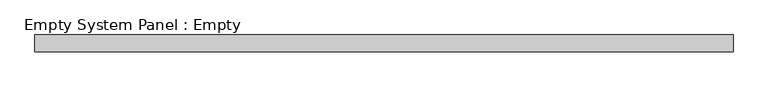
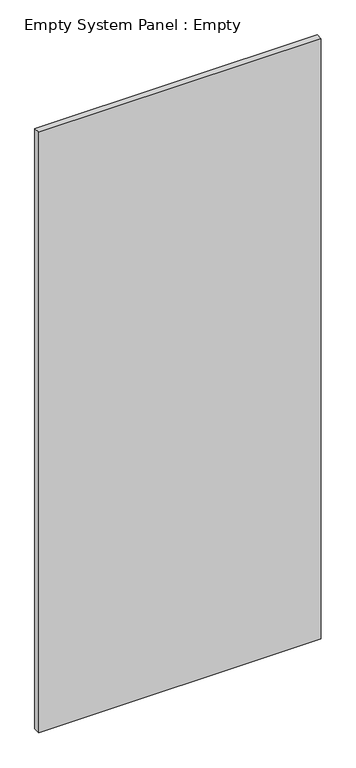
"""IFC4 building model written with IfcOpenShell, lengths in millimetres: plate geometry, Empty System Panel : Empty."""

import ifcopenshell
import ifcopenshell.guid

model = None  # the IFC model being written
_history = None  # IfcOwnerHistory: only IFC2X3 demands one
_inside = {}  # id of a spatial element -> (the spatial element, [elements in it])
_under = {}  # id of a project, library or spatial element -> (it, [spatial elements below it])
_declared = {}  # id of a project -> (the project, [libraries it declares])
_typed = {}  # id of a type object -> (the type object, [elements of that type])
_made_of = {}  # id of a material, layer set ... -> (it, [elements and type objects made of it])


def new_model(schema):
    """Start an empty IFC model of exactly this schema.

    Asked for "IFC4X3", IfcOpenShell would pick the latest addendum, in which some entities
    have other attributes; the version numbers below select the first issue.
    IFC2X3 requires an IfcOwnerHistory on every rooted entity: one is made here for all.
    """
    global model, _history
    if schema == "IFC4X3":
        model = ifcopenshell.file(schema_version=(4, 3, 0, 0))
    else:
        model = ifcopenshell.file(schema=schema)
    _inside.clear()
    _under.clear()
    _declared.clear()
    _typed.clear()
    _made_of.clear()
    _history = None
    if model.schema == "IFC2X3":
        org = make("IfcOrganization", Name="unknown")
        user = make(
            "IfcPersonAndOrganization",
            ThePerson=make("IfcPerson", FamilyName="unknown"),
            TheOrganization=org,
        )
        app = make(
            "IfcApplication",
            ApplicationDeveloper=org,
            Version="unknown",
            ApplicationFullName="unknown",
            ApplicationIdentifier="unknown",
        )
        _history = make(
            "IfcOwnerHistory",
            OwningUser=user,
            OwningApplication=app,
            ChangeAction="ADDED",
            CreationDate=0,
        )
    return model


def make(cls, **values):
    """One entity of the class cls with the attributes given. An attribute that is None is left unset."""
    return model.create_entity(
        cls, **{name: value for name, value in values.items() if value is not None}
    )


def rooted(cls, **values):
    """An entity with a GlobalId (a new one), such as an element, a storey or a relation."""
    return make(cls, GlobalId=ifcopenshell.guid.new(), OwnerHistory=_history, **values)


def si_unit(unit_type, name, prefix=None):
    """IfcSIUnit, for example si_unit("LENGTHUNIT", "METRE", prefix="MILLI")."""
    return make("IfcSIUnit", UnitType=unit_type, Prefix=prefix, Name=name)


def assignment(units):
    """IfcUnitAssignment: the units of a project."""
    return None if units is None else make("IfcUnitAssignment", Units=units)


def point(xyz):
    """IfcCartesianPoint."""
    return None if xyz is None else make("IfcCartesianPoint", Coordinates=xyz)


def direction(xyz):
    """IfcDirection."""
    return None if xyz is None else make("IfcDirection", DirectionRatios=xyz)


def frame(location, z_axis=None, x_axis=None):
    """IfcAxis2Placement3D, a coordinate frame: its origin and axes. An axis left out is left unset."""
    return make(
        "IfcAxis2Placement3D",
        Location=point(location),
        Axis=direction(z_axis),
        RefDirection=direction(x_axis),
    )


def origin():
    """The frame at (0, 0, 0) with its axes left unset."""
    return frame((0.0, 0.0, 0.0))


def origin_with_axes():
    """The frame at (0, 0, 0) with the z axis (0, 0, 1) and the x axis (1, 0, 0) written out."""
    return frame((0.0, 0.0, 0.0), z_axis=(0.0, 0.0, 1.0), x_axis=(1.0, 0.0, 0.0))


def place(relative_to, where):
    """IfcLocalPlacement: puts the frame where relative to a parent placement (None: the world)."""
    return make(
        "IfcLocalPlacement", PlacementRelTo=relative_to, RelativePlacement=where
    )


def context(
    kind, dimensions, precision=None, world=None, true_north=None, identifier=None
):
    """IfcGeometricRepresentationContext, for example the 3D "Model" context."""
    return make(
        "IfcGeometricRepresentationContext",
        ContextIdentifier=identifier,
        ContextType=kind,
        CoordinateSpaceDimension=dimensions,
        Precision=precision,
        WorldCoordinateSystem=world,
        TrueNorth=true_north,
    )


def project(units=None, contexts=None):
    """IfcProject with its units and contexts."""
    return rooted(
        "IfcProject",
        Name="project",
        RepresentationContexts=contexts,
        UnitsInContext=assignment(units),
    )


def spatial(cls, under=None, at=None, **own):
    """A site, building, storey or space (cls), placed at a placement, below another one or the project."""
    s = rooted(cls, ObjectPlacement=at, **own)
    if under is not None:
        _under.setdefault(under.id(), (under, []))[1].append(s)
    return s


def polyline(points):
    """IfcPolyline through the points."""
    return make("IfcPolyline", Points=[point(p) for p in points])


def outline(outer, holes=None, kind="AREA"):
    """IfcArbitraryClosedProfileDef: a profile drawn as a closed curve; with holes, ...WithVoids."""
    if holes is None:
        return make("IfcArbitraryClosedProfileDef", ProfileType=kind, OuterCurve=outer)
    return make(
        "IfcArbitraryProfileDefWithVoids",
        ProfileType=kind,
        OuterCurve=outer,
        InnerCurves=holes,
    )


def extrude(swept, where, along, depth):
    """IfcExtrudedAreaSolid: the profile swept, set in the frame where, extruded along a direction by depth."""
    return make(
        "IfcExtrudedAreaSolid",
        SweptArea=swept,
        Position=where,
        ExtrudedDirection=direction(along),
        Depth=depth,
    )


def shape(context_of_items, identifier, shape_type, items):
    """IfcShapeRepresentation: the items that make up one representation, for example the "Body"."""
    return make(
        "IfcShapeRepresentation",
        ContextOfItems=context_of_items,
        RepresentationIdentifier=identifier,
        RepresentationType=shape_type,
        Items=items,
    )


def source(mapping_origin, context_of_items, identifier, shape_type, items):
    """IfcRepresentationMap: a shape defined once, which mapped items show again and again."""
    return make(
        "IfcRepresentationMap",
        MappingOrigin=mapping_origin,
        MappedRepresentation=shape(context_of_items, identifier, shape_type, items),
    )


def transform(
    local_origin,
    x_axis=None,
    y_axis=None,
    z_axis=None,
    scale=None,
    scale2=None,
    scale3=None,
    uniform=True,
):
    """IfcCartesianTransformationOperator3D, or its non-uniform kind. x_axis, y_axis, z_axis: its Axis1, 2, 3."""
    if uniform:
        return make(
            "IfcCartesianTransformationOperator3D",
            Axis1=direction(x_axis),
            Axis2=direction(y_axis),
            LocalOrigin=point(local_origin),
            Scale=scale,
            Axis3=direction(z_axis),
        )
    return make(
        "IfcCartesianTransformationOperator3DnonUniform",
        Axis1=direction(x_axis),
        Axis2=direction(y_axis),
        LocalOrigin=point(local_origin),
        Scale=scale,
        Axis3=direction(z_axis),
        Scale2=scale2,
        Scale3=scale3,
    )


def mapped(mapping_source, mapping_target):
    """IfcMappedItem: shows the shape of a source again, moved by a transform."""
    return make(
        "IfcMappedItem", MappingSource=mapping_source, MappingTarget=mapping_target
    )


def made_of(thing, what):
    """Note that an element or type object is made of a material, layer set ...; save() writes the relation."""
    if what is not None:
        _made_of.setdefault(what.id(), (what, []))[1].append(thing)
    return thing


def element(
    cls,
    number,
    at=None,
    inside=None,
    cuts=None,
    type_object=None,
    material=None,
    context=None,
    identifier="Body",
    shape_type=None,
    held_by="IfcProductDefinitionShape",
    body=None,
    shapes=None,
    **own,
):
    """One element of the class cls, such as IfcWall. Its Tag is "e" and its number.

    at: its placement. inside: the storey or other place that contains it. cuts: it is an
    opening in that element (IfcRelVoidsElement). A single representation is given by context,
    identifier, shape_type and body (its items); several are given by shapes. held_by: the class
    of the entity that holds the representations. save() writes the other relations.
    """
    e = rooted(cls, Tag="e%d" % number, ObjectPlacement=at, **own)
    if body is not None:
        shapes = [shape(context, identifier, shape_type, body)]
    if shapes is not None:
        e.Representation = make(held_by, Representations=shapes)
    if inside is not None:
        _inside.setdefault(inside.id(), (inside, []))[1].append(e)
    if cuts is not None:
        rooted(
            "IfcRelVoidsElement", RelatingBuildingElement=cuts, RelatedOpeningElement=e
        )
    if type_object is not None:
        _typed.setdefault(type_object.id(), (type_object, []))[1].append(e)
    return made_of(e, material)


def aggregate(whole, parts):
    """IfcRelAggregates: a whole, such as a stair, and the parts it consists of."""
    return rooted("IfcRelAggregates", RelatingObject=whole, RelatedObjects=parts)


def save(model, path):
    """Write the relations noted so far, then the file.

    IfcRelAggregates (storeys below a building ...), IfcRelContainedInSpatialStructure (elements
    in a storey), IfcRelDefinesByType, IfcRelAssociatesMaterial and IfcRelDeclares: one each for
    every whole, place, type object, material and project.
    """
    for whole, parts in _under.values():
        aggregate(whole, parts)
    for where, things in _inside.values():
        rooted(
            "IfcRelContainedInSpatialStructure",
            RelatedElements=things,
            RelatingStructure=where,
        )
    for kind, things in _typed.values():
        rooted("IfcRelDefinesByType", RelatedObjects=things, RelatingType=kind)
    for what, things in _made_of.values():
        rooted("IfcRelAssociatesMaterial", RelatedObjects=things, RelatingMaterial=what)
    for by, libraries in _declared.values():
        rooted("IfcRelDeclares", RelatingContext=by, RelatedDefinitions=libraries)
    model.write(path)


def empty_system_panel_empty_b59d3923(model_context):
    return source(origin(), model_context, "Body", "SweptSolid", [
        extrude(outline(polyline([(527.05, 19.05), (-527.05, 19.05), (-527.05, 44.45), (527.05, 44.45), (527.05, 19.05)])), origin_with_axes(), (0.0, 0.0, 1.0), 2368.55),
    ])


if __name__ == "__main__":
    model = new_model("IFC4")
    model_context = context("Model", 3, world=origin())
    ifc_project = project(units=[si_unit("LENGTHUNIT", "METRE", prefix="MILLI")], contexts=[model_context])
    site = spatial("IfcSite", under=ifc_project)
    building = spatial("IfcBuilding", under=site)
    placement = place(None, origin())
    empty_system_panel_empty_shape = empty_system_panel_empty_b59d3923(model_context)
    element("IfcPlate", 1, ObjectType="Empty System Panel : Empty", at=placement, inside=building, context=model_context, shape_type="MappedRepresentation", body=[
        mapped(empty_system_panel_empty_shape, transform((0.0, 0.0, 0.0), x_axis=(1.0, 0.0, 0.0), y_axis=(0.0, 1.0, 0.0), z_axis=(0.0, 0.0, 1.0))),
    ])
    save(model, "model.ifc")
